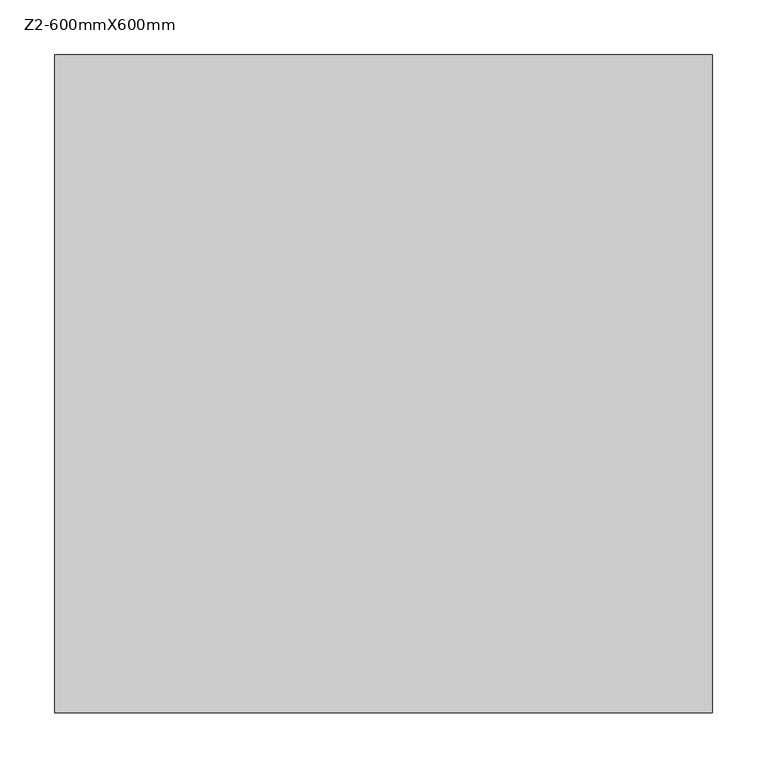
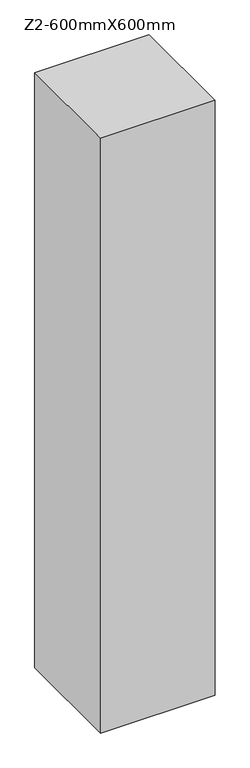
"""IFC4 building model written with IfcOpenShell, lengths in millimetres: column geometry, 混凝土 - 矩形 - 柱 : Z2-600mmX600mm."""

import ifcopenshell
import ifcopenshell.guid

model = None  # the IFC model being written
_history = None  # IfcOwnerHistory: only IFC2X3 demands one
_inside = {}  # id of a spatial element -> (the spatial element, [elements in it])
_under = {}  # id of a project, library or spatial element -> (it, [spatial elements below it])
_declared = {}  # id of a project -> (the project, [libraries it declares])
_typed = {}  # id of a type object -> (the type object, [elements of that type])
_made_of = {}  # id of a material, layer set ... -> (it, [elements and type objects made of it])


def new_model(schema):
    """Start an empty IFC model of exactly this schema.

    Asked for "IFC4X3", IfcOpenShell would pick the latest addendum, in which some entities
    have other attributes; the version numbers below select the first issue.
    IFC2X3 requires an IfcOwnerHistory on every rooted entity: one is made here for all.
    """
    global model, _history
    if schema == "IFC4X3":
        model = ifcopenshell.file(schema_version=(4, 3, 0, 0))
    else:
        model = ifcopenshell.file(schema=schema)
    _inside.clear()
    _under.clear()
    _declared.clear()
    _typed.clear()
    _made_of.clear()
    _history = None
    if model.schema == "IFC2X3":
        org = make("IfcOrganization", Name="unknown")
        user = make(
            "IfcPersonAndOrganization",
            ThePerson=make("IfcPerson", FamilyName="unknown"),
            TheOrganization=org,
        )
        app = make(
            "IfcApplication",
            ApplicationDeveloper=org,
            Version="unknown",
            ApplicationFullName="unknown",
            ApplicationIdentifier="unknown",
        )
        _history = make(
            "IfcOwnerHistory",
            OwningUser=user,
            OwningApplication=app,
            ChangeAction="ADDED",
            CreationDate=0,
        )
    return model


def make(cls, **values):
    """One entity of the class cls with the attributes given. An attribute that is None is left unset."""
    return model.create_entity(
        cls, **{name: value for name, value in values.items() if value is not None}
    )


def rooted(cls, **values):
    """An entity with a GlobalId (a new one), such as an element, a storey or a relation."""
    return make(cls, GlobalId=ifcopenshell.guid.new(), OwnerHistory=_history, **values)


def si_unit(unit_type, name, prefix=None):
    """IfcSIUnit, for example si_unit("LENGTHUNIT", "METRE", prefix="MILLI")."""
    return make("IfcSIUnit", UnitType=unit_type, Prefix=prefix, Name=name)


def assignment(units):
    """IfcUnitAssignment: the units of a project."""
    return None if units is None else make("IfcUnitAssignment", Units=units)


def point(xyz):
    """IfcCartesianPoint."""
    return None if xyz is None else make("IfcCartesianPoint", Coordinates=xyz)


def direction(xyz):
    """IfcDirection."""
    return None if xyz is None else make("IfcDirection", DirectionRatios=xyz)


def frame(location, z_axis=None, x_axis=None):
    """IfcAxis2Placement3D, a coordinate frame: its origin and axes. An axis left out is left unset."""
    return make(
        "IfcAxis2Placement3D",
        Location=point(location),
        Axis=direction(z_axis),
        RefDirection=direction(x_axis),
    )


def origin():
    """The frame at (0, 0, 0) with its axes left unset."""
    return frame((0.0, 0.0, 0.0))


def place(relative_to, where):
    """IfcLocalPlacement: puts the frame where relative to a parent placement (None: the world)."""
    return make(
        "IfcLocalPlacement", PlacementRelTo=relative_to, RelativePlacement=where
    )


def context(
    kind, dimensions, precision=None, world=None, true_north=None, identifier=None
):
    """IfcGeometricRepresentationContext, for example the 3D "Model" context."""
    return make(
        "IfcGeometricRepresentationContext",
        ContextIdentifier=identifier,
        ContextType=kind,
        CoordinateSpaceDimension=dimensions,
        Precision=precision,
        WorldCoordinateSystem=world,
        TrueNorth=true_north,
    )


def project(units=None, contexts=None):
    """IfcProject with its units and contexts."""
    return rooted(
        "IfcProject",
        Name="project",
        RepresentationContexts=contexts,
        UnitsInContext=assignment(units),
    )


def spatial(cls, under=None, at=None, **own):
    """A site, building, storey or space (cls), placed at a placement, below another one or the project."""
    s = rooted(cls, ObjectPlacement=at, **own)
    if under is not None:
        _under.setdefault(under.id(), (under, []))[1].append(s)
    return s


def polyline(points):
    """IfcPolyline through the points."""
    return make("IfcPolyline", Points=[point(p) for p in points])


def outline(outer, holes=None, kind="AREA"):
    """IfcArbitraryClosedProfileDef: a profile drawn as a closed curve; with holes, ...WithVoids."""
    if holes is None:
        return make("IfcArbitraryClosedProfileDef", ProfileType=kind, OuterCurve=outer)
    return make(
        "IfcArbitraryProfileDefWithVoids",
        ProfileType=kind,
        OuterCurve=outer,
        InnerCurves=holes,
    )


def extrude(swept, where, along, depth):
    """IfcExtrudedAreaSolid: the profile swept, set in the frame where, extruded along a direction by depth."""
    return make(
        "IfcExtrudedAreaSolid",
        SweptArea=swept,
        Position=where,
        ExtrudedDirection=direction(along),
        Depth=depth,
    )


def shape(context_of_items, identifier, shape_type, items):
    """IfcShapeRepresentation: the items that make up one representation, for example the "Body"."""
    return make(
        "IfcShapeRepresentation",
        ContextOfItems=context_of_items,
        RepresentationIdentifier=identifier,
        RepresentationType=shape_type,
        Items=items,
    )


def source(mapping_origin, context_of_items, identifier, shape_type, items):
    """IfcRepresentationMap: a shape defined once, which mapped items show again and again."""
    return make(
        "IfcRepresentationMap",
        MappingOrigin=mapping_origin,
        MappedRepresentation=shape(context_of_items, identifier, shape_type, items),
    )


def transform(
    local_origin,
    x_axis=None,
    y_axis=None,
    z_axis=None,
    scale=None,
    scale2=None,
    scale3=None,
    uniform=True,
):
    """IfcCartesianTransformationOperator3D, or its non-uniform kind. x_axis, y_axis, z_axis: its Axis1, 2, 3."""
    if uniform:
        return make(
            "IfcCartesianTransformationOperator3D",
            Axis1=direction(x_axis),
            Axis2=direction(y_axis),
            LocalOrigin=point(local_origin),
            Scale=scale,
            Axis3=direction(z_axis),
        )
    return make(
        "IfcCartesianTransformationOperator3DnonUniform",
        Axis1=direction(x_axis),
        Axis2=direction(y_axis),
        LocalOrigin=point(local_origin),
        Scale=scale,
        Axis3=direction(z_axis),
        Scale2=scale2,
        Scale3=scale3,
    )


def mapped(mapping_source, mapping_target):
    """IfcMappedItem: shows the shape of a source again, moved by a transform."""
    return make(
        "IfcMappedItem", MappingSource=mapping_source, MappingTarget=mapping_target
    )


def made_of(thing, what):
    """Note that an element or type object is made of a material, layer set ...; save() writes the relation."""
    if what is not None:
        _made_of.setdefault(what.id(), (what, []))[1].append(thing)
    return thing


def element(
    cls,
    number,
    at=None,
    inside=None,
    cuts=None,
    type_object=None,
    material=None,
    context=None,
    identifier="Body",
    shape_type=None,
    held_by="IfcProductDefinitionShape",
    body=None,
    shapes=None,
    **own,
):
    """One element of the class cls, such as IfcWall. Its Tag is "e" and its number.

    at: its placement. inside: the storey or other place that contains it. cuts: it is an
    opening in that element (IfcRelVoidsElement). A single representation is given by context,
    identifier, shape_type and body (its items); several are given by shapes. held_by: the class
    of the entity that holds the representations. save() writes the other relations.
    """
    e = rooted(cls, Tag="e%d" % number, ObjectPlacement=at, **own)
    if body is not None:
        shapes = [shape(context, identifier, shape_type, body)]
    if shapes is not None:
        e.Representation = make(held_by, Representations=shapes)
    if inside is not None:
        _inside.setdefault(inside.id(), (inside, []))[1].append(e)
    if cuts is not None:
        rooted(
            "IfcRelVoidsElement", RelatingBuildingElement=cuts, RelatedOpeningElement=e
        )
    if type_object is not None:
        _typed.setdefault(type_object.id(), (type_object, []))[1].append(e)
    return made_of(e, material)


def aggregate(whole, parts):
    """IfcRelAggregates: a whole, such as a stair, and the parts it consists of."""
    return rooted("IfcRelAggregates", RelatingObject=whole, RelatedObjects=parts)


def save(model, path):
    """Write the relations noted so far, then the file.

    IfcRelAggregates (storeys below a building ...), IfcRelContainedInSpatialStructure (elements
    in a storey), IfcRelDefinesByType, IfcRelAssociatesMaterial and IfcRelDeclares: one each for
    every whole, place, type object, material and project.
    """
    for whole, parts in _under.values():
        aggregate(whole, parts)
    for where, things in _inside.values():
        rooted(
            "IfcRelContainedInSpatialStructure",
            RelatedElements=things,
            RelatingStructure=where,
        )
    for kind, things in _typed.values():
        rooted("IfcRelDefinesByType", RelatedObjects=things, RelatingType=kind)
    for what, things in _made_of.values():
        rooted("IfcRelAssociatesMaterial", RelatedObjects=things, RelatingMaterial=what)
    for by, libraries in _declared.values():
        rooted("IfcRelDeclares", RelatingContext=by, RelatedDefinitions=libraries)
    model.write(path)


def z2_600mmx600mm_cf732799(model_context):
    return source(origin(), model_context, "Body", "SweptSolid", [
        extrude(outline(polyline([(300.0, -300.0), (-300.0, -300.0), (-300.0, 300.0), (300.0, 300.0), (300.0, -300.0)])), frame((0.0, 0.0, 3900.0), z_axis=(0.0, 0.0, 1.0), x_axis=(1.0, 0.0, 0.0)), (0.0, 0.0, 1.0), 3300.0),
    ])


if __name__ == "__main__":
    model = new_model("IFC4")
    model_context = context("Model", 3, world=origin())
    ifc_project = project(units=[si_unit("LENGTHUNIT", "METRE", prefix="MILLI")], contexts=[model_context])
    site = spatial("IfcSite", under=ifc_project)
    building = spatial("IfcBuilding", under=site)
    placement = place(None, origin())
    z2_600mmx600mm_shape = z2_600mmx600mm_cf732799(model_context)
    element("IfcColumn", 1, ObjectType="混凝土 - 矩形 - 柱 : Z2-600mmX600mm", at=placement, inside=building, context=model_context, shape_type="MappedRepresentation", body=[
        mapped(z2_600mmx600mm_shape, transform((0.0, 0.0, 0.0), x_axis=(1.0, 0.0, 0.0), y_axis=(0.0, 1.0, 0.0), z_axis=(0.0, 0.0, 1.0))),
    ])
    save(model, "model.ifc")
